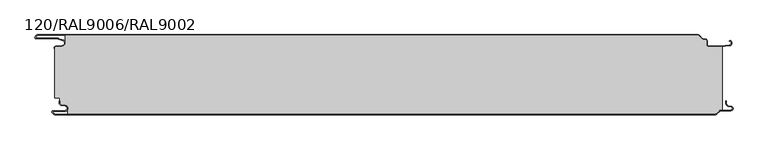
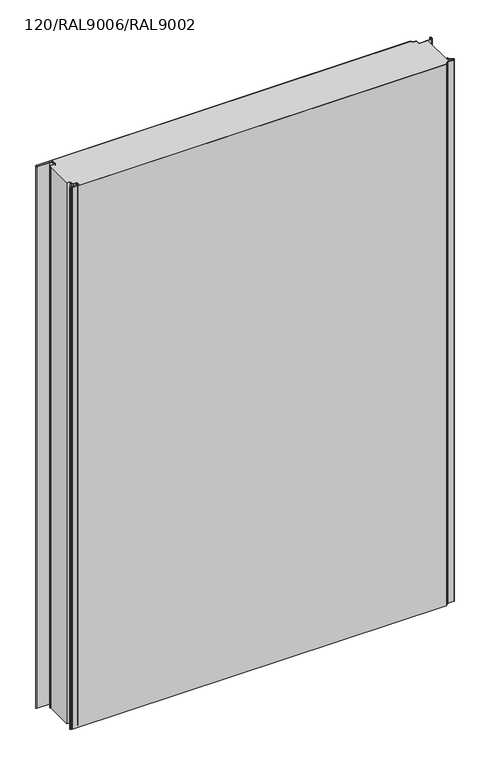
"""IFC4 building model written with IfcOpenShell, lengths in millimetres: plate geometry, TR_C_V_FHL_Panel : 120/RAL9006/RAL9002."""

from ifc_helpers import new_model, si_unit, point, frame, frame_2d, origin, place, context, project, spatial, polyline, circle_curve, trimmed, segment, composite_curve, outline, extrude, source, transform, mapped, element, save


def plate_120_ral9006_ral9002_8f508d1c(model_context):
    return source(origin(), model_context, "Body", "SweptSolid", [
        extrude(outline(composite_curve([segment(polyline([(-492.9, -99.0), (-492.1, -99.0), (-492.1, -102.3925589)]), True, "CONTINUOUS"), segment(trimmed(circle_curve(frame_2d((-489.15, -102.3925589)), 2.95), [point((-492.1, -102.3925589))], [point((-489.6622621, -105.2977418))], True, "CARTESIAN"), True, "CONTINUOUS"), segment(polyline([(-489.6622621, -105.2977418), (-483.6119952, -106.364567)]), True, "CONTINUOUS"), segment(trimmed(circle_curve(frame_2d((-484.35, -110.55)), 4.25), [point((-483.6119952, -106.364567))], [point((-484.35, -114.8))], False, "CARTESIAN"), True, "CONTINUOUS"), segment(polyline([(-484.35, -114.8), (-501.95, -114.8)]), True, "CONTINUOUS"), segment(trimmed(circle_curve(frame_2d((-501.95, -115.95)), 1.15), [point((-501.95, -114.8))], [point((-502.7631728, -116.7631728))], True, "CARTESIAN"), True, "CONTINUOUS"), segment(polyline([(-502.7631728, -116.7631728), (-500.8974874, -118.6288582)]), True, "CONTINUOUS"), segment(trimmed(circle_curve(frame_2d((-499.5186292, -117.25)), 1.95), [point((-500.8974874, -118.6288582))], [point((-499.5186292, -119.2))], True, "CARTESIAN"), True, "CONTINUOUS"), segment(polyline([(-499.5186292, -119.2), (489.8218254, -119.2)]), True, "CONTINUOUS"), segment(trimmed(circle_curve(frame_2d((489.8218254, -117.0)), 2.2), [point((489.8218254, -119.2))], [point((491.3774603, -118.5556349))], True, "CARTESIAN"), True, "CONTINUOUS"), segment(polyline([(491.3774603, -118.5556349), (495.7665476, -114.1665476)]), True, "CONTINUOUS"), segment(trimmed(circle_curve(frame_2d((498.1, -116.5)), 3.3), [point((495.7665476, -114.1665476))], [point((498.1, -113.2))], False, "CARTESIAN"), True, "CONTINUOUS"), segment(polyline([(498.1, -113.2), (512.85, -113.2)]), True, "CONTINUOUS"), segment(trimmed(circle_curve(frame_2d((512.85, -110.75)), 2.45), [point((512.85, -113.2))], [point((513.275438, -108.337221))], True, "CARTESIAN"), True, "CONTINUOUS"), segment(polyline([(513.275438, -108.337221), (509.0599008, -107.5939081)]), True, "CONTINUOUS"), segment(trimmed(circle_curve(frame_2d((509.85, -103.1130328)), 4.55), [point((509.0599008, -107.5939081))], [point((505.3, -103.1130328))], False, "CARTESIAN"), True, "CONTINUOUS"), segment(polyline([(505.3, -103.1130328), (505.3, -99.0), (506.1, -99.0), (506.1, -103.1130328)]), True, "CONTINUOUS"), segment(trimmed(circle_curve(frame_2d((509.85, -103.1130328)), 3.75), [point((506.1, -103.1130328))], [point((509.1988193, -106.8060618))], True, "CARTESIAN"), True, "CONTINUOUS"), segment(polyline([(509.1988193, -106.8060618), (513.4143566, -107.5493748)]), True, "CONTINUOUS"), segment(trimmed(circle_curve(frame_2d((512.85, -110.75)), 3.25), [point((513.4143566, -107.5493748))], [point((512.85, -114.0))], False, "CARTESIAN"), True, "CONTINUOUS"), segment(polyline([(512.85, -114.0), (498.1, -114.0)]), True, "CONTINUOUS"), segment(trimmed(circle_curve(frame_2d((498.1, -116.5)), 2.5), [point((498.1, -114.0))], [point((496.332233, -114.732233))], True, "CARTESIAN"), True, "CONTINUOUS"), segment(polyline([(496.332233, -114.732233), (491.9431458, -119.1213203)]), True, "CONTINUOUS"), segment(trimmed(circle_curve(frame_2d((489.8218254, -117.0)), 3.0), [point((491.9431458, -119.1213203))], [point((489.8218254, -120.0))], False, "CARTESIAN"), True, "CONTINUOUS"), segment(polyline([(489.8218254, -120.0), (-499.5186292, -120.0)]), True, "CONTINUOUS"), segment(trimmed(circle_curve(frame_2d((-499.5186292, -117.25)), 2.75), [point((-499.5186292, -120.0))], [point((-501.4631728, -119.1945436))], False, "CARTESIAN"), True, "CONTINUOUS"), segment(polyline([(-501.4631728, -119.1945436), (-503.3288582, -117.3288582)]), True, "CONTINUOUS"), segment(trimmed(circle_curve(frame_2d((-501.95, -115.95)), 1.95), [point((-503.3288582, -117.3288582))], [point((-501.95, -114.0))], False, "CARTESIAN"), True, "CONTINUOUS"), segment(polyline([(-501.95, -114.0), (-484.35, -114.0)]), True, "CONTINUOUS"), segment(trimmed(circle_curve(frame_2d((-484.35, -110.55)), 3.45), [point((-484.35, -114.0))], [point((-483.7509138, -107.1524133))], True, "CARTESIAN"), True, "CONTINUOUS"), segment(polyline([(-483.7509138, -107.1524133), (-489.8011807, -106.085588)]), True, "CONTINUOUS"), segment(trimmed(circle_curve(frame_2d((-489.15, -102.3925589)), 3.75), [point((-489.8011807, -106.085588))], [point((-492.9, -102.3925589))], False, "CARTESIAN"), True, "CONTINUOUS"), segment(polyline([(-492.9, -102.3925589), (-492.9, -99.0)]), True, "CONTINUOUS")], self_intersect=False)), frame((0.0, 0.0, -15.0), z_axis=(0.0, 0.0, 1.0), x_axis=(1.0, 0.0, 0.0)), (0.0, 0.0, 1.0), 1515.0),
        extrude(outline(composite_curve([segment(polyline([(-480.1, -119.2), (-480.1, -110.55)]), True, "CONTINUOUS"), segment(trimmed(circle_curve(frame_2d((-484.35, -110.55)), 4.25), [point((-480.1, -110.55))], [point((-483.6119952, -106.364567))], True, "CARTESIAN"), True, "CONTINUOUS"), segment(polyline([(-483.6119952, -106.364567), (-489.6622621, -105.2977418)]), True, "CONTINUOUS"), segment(trimmed(circle_curve(frame_2d((-489.15, -102.3925589)), 2.95), [point((-489.6622621, -105.2977418))], [point((-492.1, -102.3925589))], False, "CARTESIAN"), True, "CONTINUOUS"), segment(polyline([(-492.1, -102.3925589), (-492.1, -94.86), (-500.0, -94.86), (-500.0, -20.8), (-499.9, -19.7908279)]), True, "CONTINUOUS"), segment(trimmed(circle_curve(frame_2d((-498.2, -19.7908279)), 1.7), [point((-499.9, -19.7908279))], [point((-498.3481648, -18.0972969))], False, "CARTESIAN"), True, "CONTINUOUS"), segment(polyline([(-498.3481648, -18.0972969), (-488.4735884, -17.2333835)]), True, "CONTINUOUS"), segment(trimmed(circle_curve(frame_2d((-488.9006516, -12.3520294)), 4.9), [point((-488.4735884, -17.2333835))], [point((-484.0006516, -12.3520294))], True, "CARTESIAN"), True, "CONTINUOUS"), segment(polyline([(-484.0006516, -12.3520294), (-484.0006516, -0.8), (463.4370797, -0.8)]), True, "CONTINUOUS"), segment(trimmed(circle_curve(frame_2d((463.4370797, -2.7)), 1.9), [point((463.4370797, -0.8))], [point((464.7805826, -1.3564971))], False, "CARTESIAN"), True, "CONTINUOUS"), segment(polyline([(464.7805826, -1.3564971), (469.6039845, -6.179899)]), True, "CONTINUOUS"), segment(trimmed(circle_curve(frame_2d((471.5838835, -4.2)), 2.8), [point((469.6039845, -6.179899))], [point((471.5838835, -7.0))], True, "CARTESIAN"), True, "CONTINUOUS"), segment(polyline([(471.5838835, -7.0), (474.4, -7.0)]), True, "CONTINUOUS"), segment(trimmed(circle_curve(frame_2d((474.4, -8.9)), 1.9), [point((474.4, -7.0))], [point((476.3, -8.9))], False, "CARTESIAN"), True, "CONTINUOUS"), segment(polyline([(476.3, -8.9), (476.3, -14.8)]), True, "CONTINUOUS"), segment(trimmed(circle_curve(frame_2d((479.1, -14.8)), 2.8), [point((476.3, -14.8))], [point((479.1, -17.6))], True, "CARTESIAN"), True, "CONTINUOUS"), segment(polyline([(479.1, -17.6), (498.2349288, -17.6), (500.0, -17.4455763), (500.0, -113.2), (498.1, -113.2)]), True, "CONTINUOUS"), segment(trimmed(circle_curve(frame_2d((498.1, -116.5)), 3.3), [point((498.1, -113.2))], [point((495.7665476, -114.1665476))], True, "CARTESIAN"), True, "CONTINUOUS"), segment(polyline([(495.7665476, -114.1665476), (491.3774603, -118.5556349)]), True, "CONTINUOUS"), segment(trimmed(circle_curve(frame_2d((489.8218254, -117.0)), 2.2), [point((491.3774603, -118.5556349))], [point((489.8218254, -119.2))], False, "CARTESIAN"), True, "CONTINUOUS"), segment(polyline([(489.8218254, -119.2), (-480.1, -119.2)]), True, "CONTINUOUS")], self_intersect=False)), frame((0.0, 0.0, -15.0), z_axis=(0.0, 0.0, 1.0), x_axis=(1.0, 0.0, 0.0)), (0.0, 0.0, 1.0), 1515.0),
        extrude(outline(composite_curve([segment(trimmed(circle_curve(frame_2d((-525.1006169, -2.7)), 1.9), [point((-525.1006169, -0.8))], [point((-526.4901889, -1.4042031))], True, "CARTESIAN"), True, "CONTINUOUS"), segment(polyline([(-526.4901889, -1.4042031), (-528.3044891, -3.3498018)]), True, "CONTINUOUS"), segment(trimmed(circle_curve(frame_2d((-527.5, -4.1)), 1.1), [point((-528.3044891, -3.3498018))], [point((-527.5, -5.2))], True, "CARTESIAN"), True, "CONTINUOUS"), segment(polyline([(-527.5, -5.2), (-495.1732718, -5.2)]), True, "CONTINUOUS"), segment(trimmed(circle_curve(frame_2d((-495.1732718, -8.5)), 3.3), [point((-495.1732718, -5.2))], [point((-494.0988969, -5.3797887))], False, "CARTESIAN"), True, "CONTINUOUS"), segment(polyline([(-494.0988969, -5.3797887), (-487.3053676, -7.7189884)]), True, "CONTINUOUS"), segment(trimmed(circle_curve(frame_2d((-488.9006516, -12.3520294)), 4.9), [point((-487.3053676, -7.7189884))], [point((-488.4735884, -17.2333835))], False, "CARTESIAN"), True, "CONTINUOUS"), segment(polyline([(-488.4735884, -17.2333835), (-498.3481648, -18.0972969)]), True, "CONTINUOUS"), segment(trimmed(circle_curve(frame_2d((-498.2, -19.7908279)), 1.7), [point((-498.3481648, -18.0972969))], [point((-499.9, -19.7908279))], True, "CARTESIAN"), True, "CONTINUOUS"), segment(polyline([(-499.9, -19.7908279), (-499.9, -20.8), (-500.7, -20.8), (-500.7, -19.7908279)]), True, "CONTINUOUS"), segment(trimmed(circle_curve(frame_2d((-498.2, -19.7908279)), 2.5), [point((-500.7, -19.7908279))], [point((-498.4178894, -17.3003412))], False, "CARTESIAN"), True, "CONTINUOUS"), segment(polyline([(-498.4178894, -17.3003412), (-488.543313, -16.4364277)]), True, "CONTINUOUS"), segment(trimmed(circle_curve(frame_2d((-488.9006516, -12.3520294)), 4.1), [point((-488.543313, -16.4364277))], [point((-487.5658221, -8.4754033))], True, "CARTESIAN"), True, "CONTINUOUS"), segment(polyline([(-487.5658221, -8.4754033), (-494.3593514, -6.1362036)]), True, "CONTINUOUS"), segment(trimmed(circle_curve(frame_2d((-495.1732718, -8.5)), 2.5), [point((-494.3593514, -6.1362036))], [point((-495.1732718, -6.0))], True, "CARTESIAN"), True, "CONTINUOUS"), segment(polyline([(-495.1732718, -6.0), (-527.5, -6.0)]), True, "CONTINUOUS"), segment(trimmed(circle_curve(frame_2d((-527.5, -4.1)), 1.9), [point((-527.5, -6.0))], [point((-528.889572, -2.8042031))], False, "CARTESIAN"), True, "CONTINUOUS"), segment(polyline([(-528.889572, -2.8042031), (-527.0752719, -0.8586044)]), True, "CONTINUOUS"), segment(trimmed(circle_curve(frame_2d((-525.1006169, -2.7)), 2.7), [point((-527.0752719, -0.8586044))], [point((-525.1006169, 0.0))], False, "CARTESIAN"), True, "CONTINUOUS"), segment(polyline([(-525.1006169, 0.0), (463.4370797, 0.0)]), True, "CONTINUOUS"), segment(trimmed(circle_curve(frame_2d((463.4370797, -2.7)), 2.7), [point((463.4370797, 0.0))], [point((465.346268, -0.7908117))], False, "CARTESIAN"), True, "CONTINUOUS"), segment(polyline([(465.346268, -0.7908117), (470.1696699, -5.6142136)]), True, "CONTINUOUS"), segment(trimmed(circle_curve(frame_2d((471.5838835, -4.2)), 2.0), [point((470.1696699, -5.6142136))], [point((471.5838835, -6.2))], True, "CARTESIAN"), True, "CONTINUOUS"), segment(polyline([(471.5838835, -6.2), (474.4, -6.2)]), True, "CONTINUOUS"), segment(trimmed(circle_curve(frame_2d((474.4, -8.9)), 2.7), [point((474.4, -6.2))], [point((477.1, -8.9))], False, "CARTESIAN"), True, "CONTINUOUS"), segment(polyline([(477.1, -8.9), (477.1, -14.8)]), True, "CONTINUOUS"), segment(trimmed(circle_curve(frame_2d((479.1, -14.8)), 2.0), [point((477.1, -14.8))], [point((479.1, -16.8))], True, "CARTESIAN"), True, "CONTINUOUS"), segment(polyline([(479.1, -16.8), (498.2, -16.8), (510.6788984, -15.7082379)]), True, "CONTINUOUS"), segment(trimmed(circle_curve(frame_2d((510.4, -12.5204148)), 3.2), [point((510.6788984, -15.7082379))], [point((511.4418181, -9.4947554))], True, "CARTESIAN"), True, "CONTINUOUS"), segment(polyline([(511.4418181, -9.4947554), (510.5426332, -9.1851412), (510.8030877, -8.4287263), (511.7022726, -8.7383405)]), True, "CONTINUOUS"), segment(trimmed(circle_curve(frame_2d((510.4, -12.5204148)), 4.0), [point((511.7022726, -8.7383405))], [point((510.748623, -16.5051936))], False, "CARTESIAN"), True, "CONTINUOUS"), segment(polyline([(510.748623, -16.5051936), (498.2349288, -17.6), (479.1, -17.6)]), True, "CONTINUOUS"), segment(trimmed(circle_curve(frame_2d((479.1, -14.8)), 2.8), [point((479.1, -17.6))], [point((476.3, -14.8))], False, "CARTESIAN"), True, "CONTINUOUS"), segment(polyline([(476.3, -14.8), (476.3, -8.9)]), True, "CONTINUOUS"), segment(trimmed(circle_curve(frame_2d((474.4, -8.9)), 1.9), [point((476.3, -8.9))], [point((474.4, -7.0))], True, "CARTESIAN"), True, "CONTINUOUS"), segment(polyline([(474.4, -7.0), (471.5838835, -7.0)]), True, "CONTINUOUS"), segment(trimmed(circle_curve(frame_2d((471.5838835, -4.2)), 2.8), [point((471.5838835, -7.0))], [point((469.6039845, -6.179899))], False, "CARTESIAN"), True, "CONTINUOUS"), segment(polyline([(469.6039845, -6.179899), (464.7805826, -1.3564971)]), True, "CONTINUOUS"), segment(trimmed(circle_curve(frame_2d((463.4370797, -2.7)), 1.9), [point((464.7805826, -1.3564971))], [point((463.4370797, -0.8))], True, "CARTESIAN"), True, "CONTINUOUS"), segment(polyline([(463.4370797, -0.8), (-525.1006169, -0.8)]), True, "CONTINUOUS")], self_intersect=False)), frame((0.0, 0.0, -15.0), z_axis=(0.0, 0.0, 1.0), x_axis=(1.0, 0.0, 0.0)), (0.0, 0.0, 1.0), 1515.0),
    ])


if __name__ == "__main__":
    model = new_model("IFC4")
    model_context = context("Model", 3, world=origin())
    ifc_project = project(units=[si_unit("LENGTHUNIT", "METRE", prefix="MILLI")], contexts=[model_context])
    site = spatial("IfcSite", under=ifc_project)
    building = spatial("IfcBuilding", under=site)
    placement = place(None, origin())
    plate_120_ral9006_ral9002_shape = plate_120_ral9006_ral9002_8f508d1c(model_context)
    element("IfcPlate", 1, ObjectType="TR_C_V_FHL_Panel : 120/RAL9006/RAL9002", at=placement, inside=building, context=model_context, shape_type="MappedRepresentation", body=[
        mapped(plate_120_ral9006_ral9002_shape, transform((0.0, 0.0, 0.0), x_axis=(1.0, 0.0, 0.0), y_axis=(0.0, 1.0, 0.0), z_axis=(0.0, 0.0, 1.0))),
    ])
    save(model, "model.ifc")
